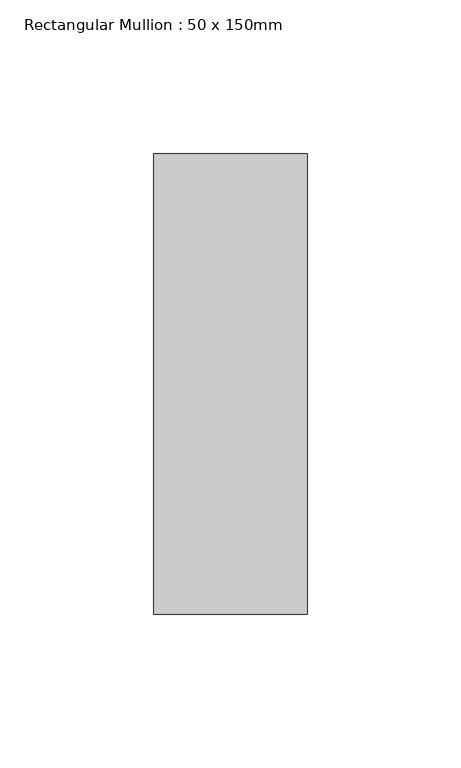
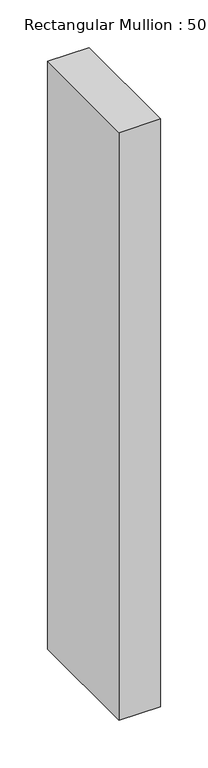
"""IFC4 building model written with IfcOpenShell, lengths in millimetres: member geometry, Rectangular Mullion : 50 x 150mm."""

from ifc_helpers import new_model, si_unit, frame, origin, place, context, project, spatial, polyline, outline, extrude, source, transform, mapped, element, save


def rectangular_mullion_50_x_150mm_70b588a3(model_context):
    return source(origin(), model_context, "Body", "SweptSolid", [
        extrude(outline(polyline([(0.0, 75.0), (0.0, -75.0), (-50.0, -75.0), (-50.0, 75.0), (0.0, 75.0)])), frame((0.0, 0.0, -751.5075557), z_axis=(0.0, 0.0, 1.0), x_axis=(1.0, 0.0, 0.0)), (0.0, 0.0, 1.0), 751.5075557),
    ])


if __name__ == "__main__":
    model = new_model("IFC4")
    model_context = context("Model", 3, world=origin())
    ifc_project = project(units=[si_unit("LENGTHUNIT", "METRE", prefix="MILLI")], contexts=[model_context])
    site = spatial("IfcSite", under=ifc_project)
    building = spatial("IfcBuilding", under=site)
    placement = place(None, origin())
    rectangular_mullion_50_x_150mm_shape = rectangular_mullion_50_x_150mm_70b588a3(model_context)
    element("IfcMember", 1, ObjectType="Rectangular Mullion : 50 x 150mm", at=placement, inside=building, context=model_context, shape_type="MappedRepresentation", body=[
        mapped(rectangular_mullion_50_x_150mm_shape, transform((0.0, 0.0, 0.0), x_axis=(1.0, 0.0, 0.0), y_axis=(0.0, 1.0, 0.0), z_axis=(0.0, 0.0, 1.0))),
    ])
    save(model, "model.ifc")
